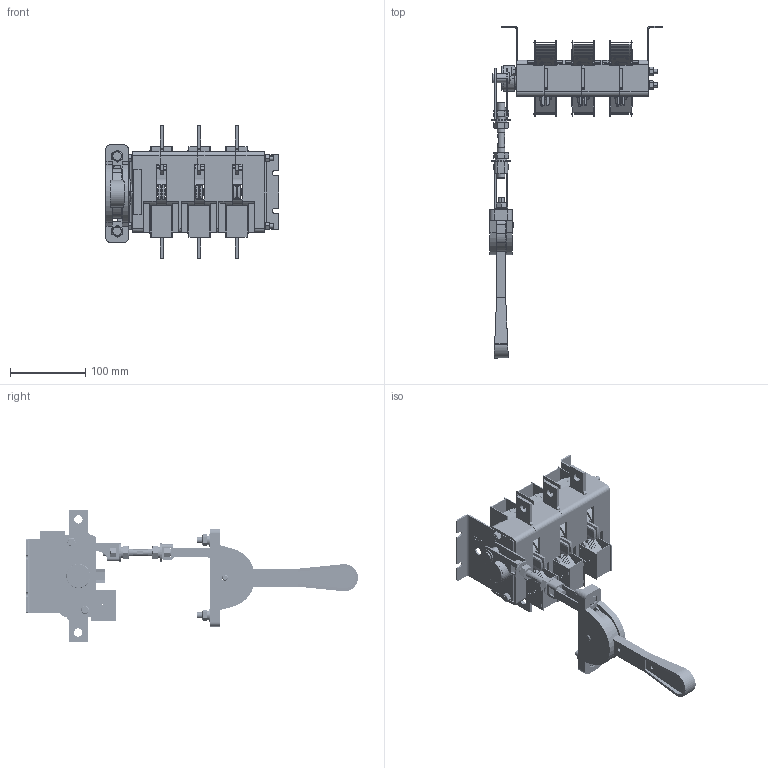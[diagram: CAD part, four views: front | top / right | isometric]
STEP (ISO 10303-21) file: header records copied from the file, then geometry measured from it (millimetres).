
FILE_DESCRIPTION (( 'STEP AP214' ), '1' );
FILE_NAME ('ﾂﾐ32-37ﾔ ﾃﾆﾈﾊ.642523.008-07 (ﾀ31240-400ﾀ).STEP', '2022-07-14T11:08:30', ( '' ), ( '' ), 'SwSTEP 2.0', 'SolidWorks 2018', '' );
FILE_SCHEMA (( 'AUTOMOTIVE_DESIGN' ));
Length unit declared in the file: millimetre
Products named in the file (59): Ðóêîÿòêà_ÃÆÈÊ.303658.018; ﾏ魵鮏鶴ﾃﾆﾈﾊ.741321.006; ﾏ跖浯_ﾃﾆﾈﾊ.753553.011_-01 (癸ｮ爼); 殃钺郷闷仁.745327.019_帷獱; ﾘ琺矜 ⅰⅱ浯 ﾃﾆﾈﾊ.758491.067; Ðóêîÿòêà ÃÆÈÊ.303658.014; Êàìåðà äóãîãàñèòåëüíàÿ ÃÆÈÊ.686431.025; 殃钺郷闷仁.745326.025; Ãàéêà 2Ì6-6Í.5.016; 务黖闷仁.715411.024; Êîðïóñ ñðåäíèé ÃÆÈÊ.735384.046; ﾂ琿 ﾃﾆﾈﾊ.715274.003; ﾏ魵鮏鶴 ﾃﾆﾈﾊ.304594.012Cﾁ; ﾎ_ﾃﾆﾈﾊ.715411.027_-01 (癸ｮ爼); Ðóêîÿòêà_ÃÆÈÊ.303658.012ÑÁ; ﾘ琺矜 6 65ﾃ 016; ﾂﾐ32-37ﾔ ﾃﾆﾈﾊ.642523.008-07 (ﾀ31240-400ﾀ); 瀇僔蠂縺019; Øïèëüêà Ì6 ÃÆÈÊ.758292.005; 锐牮钽囫栩咫羅闷仁.686433.003; Èñêðîãàñèòåëü_ÃÆÈÊ.741271.007_-01(®â¢¥àáâ¨ï); 暑痫篑 镳噔 闷仁.735384.045; Áîêîâèíà ëåâàÿ ÃÆÈÊ.735224.027; ﾘ琺矜 10 65ﾃ 016; îñü023; 羊屙赅_闷仁.741226.003; 殃钺郷闷仁.301535.003蚜; 想囫蜩磬_闷仁.745355.008; Êîíòàêò ïîäâèæíûé_ÃÆÈÊ.745355.013; 婰膲僗闉010; Êîðïóñ ëåâûé ÃÆÈÊ.735384.047; Áîëò Ì8õ25.58.019; Êîðïóñ_ÃÆÈÊ.735384.053_¤«ï ç¥àâ¥¦ ; 抔樖罻; ﾘ琺矜 8.01.019; 殃钺郷闷仁.301535.004蚜; 想囫蜩磬_闷仁.745355.007; Ñêîáà010; 挓鎀霠罻_100-400; Ãàéêà 2Ì10-6Í.5.016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
Assembly tree (100 placements, depth 5):
  ﾂﾐ32-37ﾔ ﾃﾆﾈﾊ.642523.008-07 (ﾀ31240-400ﾀ)
    ﾂ琿 ﾃﾆﾈﾊ.715274.003
    Êîðïóñ ëåâûé ÃÆÈÊ.735384.047
    Êîðïóñ ñðåäíèé ÃÆÈÊ.735384.046  x2
    暑痫篑 镳噔 闷仁.735384.045
    Áîêîâèíà ëåâàÿ ÃÆÈÊ.735224.027
    Áîêîâèíà ïðàâàÿ ÃÆÈÊ.735224.026
    Êàìåðà äóãîãàñèòåëüíàÿ ÃÆÈÊ.686431.025  x6
      想囫蜩磬_闷仁.745355.008
      羊屙赅_闷仁.741226.003
      锐牮钽囫栩咫黖闷仁.741271.007
      锐牮钽囫栩咫羅闷仁.686433.003
        殃钺郷闷仁.745326.025
        Èñêðîãàñèòåëü_ÃÆÈÊ.741271.007_-01(®â¢¥àáâ¨ï)
        抔樖罻  x2
    Êîíòàêò ïîäâèæíûé ÃÆÈÊ.685179.145  x3
      Êîíòàêò ïîäâèæíûé_ÃÆÈÊ.745355.013
      想囫蜩磬_闷仁.745355.007
      澡犟囹铕_闷仁.745484.006
      务黖闷仁.715411.019
      ﾏ跖浯_ﾃﾆﾈﾊ.753553.011_-01 (癸ｮ爼)
    Øïèëüêà Ì6 ÃÆÈÊ.758292.005  x2
    Ãàéêà 2Ì6-6Í.5.016  x4
    ﾘ琺矜 6 65ﾃ 016  x4
    ﾏ跖浯 ﾃﾆﾈﾊ.753553.010  x2
    澡犟囹铕 闷仁.745484.003  x2
    ﾂ鏆鮏 ﾃﾆﾈﾊ.745485.005  x6
    Ðóêîÿòêà ÃÆÈÊ.303658.014
      Êîðïóñ_ÃÆÈÊ.735384.053_¤«ï ç¥àâ¥¦ 
      Ðóêîÿòêà_ÃÆÈÊ.303658.012ÑÁ
        瀇僔蠂縺019
        挓鎀霠罻
      îñü023
      Ñêîáà010
      婰膲僗闉010
      Ïðóæ014(13)_¤«ï á¡®àª¨
      殃钺郷闷仁.301535.003蚜
        Ãàéêà 2Ì10-6Í.5.016
        殃钺郷闷仁.745327.019_帷獱
      务黖闷仁.715411.024
      仫桦郷闷仁.758292.007
      殃钺郷闷仁.301535.004蚜
        殃钺郷闷仁.745327.027_帷獱
        Ãàéêà 2Ì10-6Í.5.016
      Ðóêîÿòêà_ÃÆÈÊ.303658.018
        ﾏ魵鮏鶴 ﾃﾆﾈﾊ.304594.012Cﾁ
          ﾏ魵鮏鶴ﾃﾆﾈﾊ.741321.006
          ﾎ_ﾃﾆﾈﾊ.715411.027_-01 (癸ｮ爼)
          想囫蜩磬_闷仁.745355.029
        挓鎀霠罻_100-400
      Ãàéêà 2Ì10-6Í.5.016  x2
      ﾘ琺矜 ⅰⅱ浯 ﾃﾆﾈﾊ.758491.067
      青汶篪赅_闷仁.735211.002
      Áîëò Ì8õ25.58.019  x2
      ﾘ琺矜 8.01.019  x2
      ﾘ琺矜 8 65ﾃ 016  x2
      Ãàéêà 2Ì8-6Í.5.016  x2
      Øàéáà ñïåöèàëüíàÿ  x2
      ﾘ琺矜 10 65ﾃ 016  x2
    Òàáëè÷êà äëÿ ñáîðêè ÷èñòàÿ
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Bounding box: 231.1 x 441.54 x 176.5 mm (x, y, z)
Volume: 752417.8 mm3; surface area: 516727 mm2
Topology: 161 solids, 161 shells, 5017 faces, 12856 edges, 8272 vertices
Faces by surface type: plane 3431, cylinder 1313, cone 106, bspline 93, sphere 54, torus 20
Entity records: 66948 total; most frequent: CARTESIAN_POINT 18704, DIRECTION 9409, ORIENTED_EDGE 8908, EDGE_CURVE 4454, AXIS2_PLACEMENT_3D 3259, LINE 2891, VECTOR 2891, VERTEX_POINT 2882
